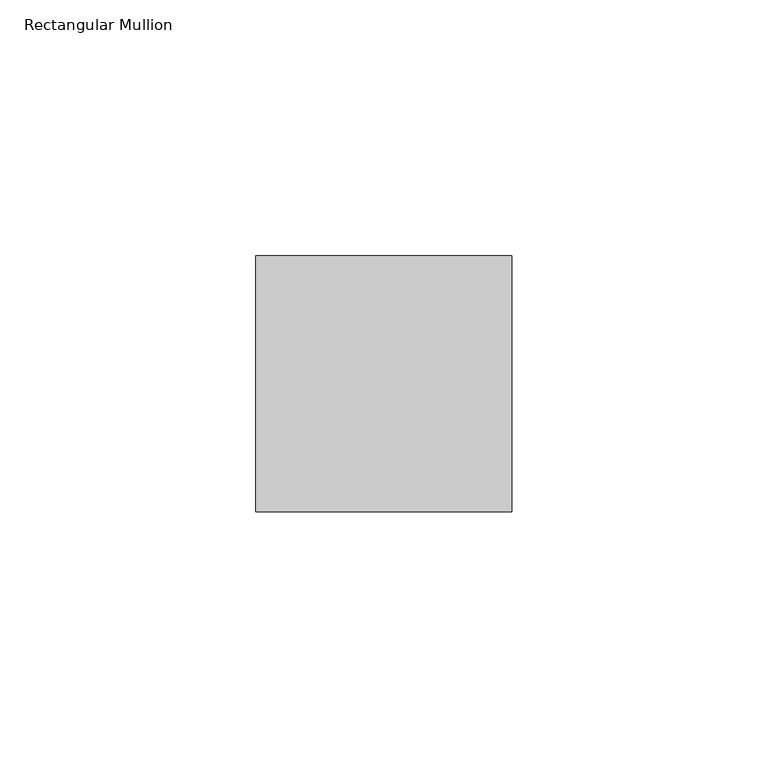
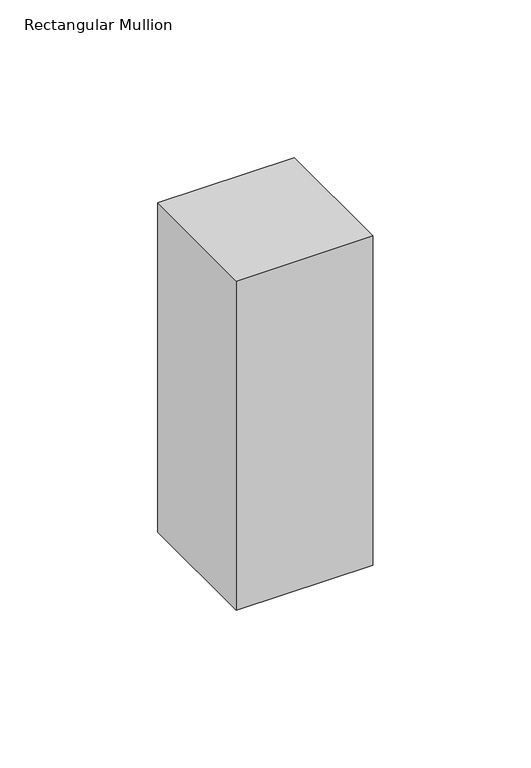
"""IFC4 building model written with IfcOpenShell, lengths in millimetres: member geometry, Rectangular Mullion : RSen_21_CWM_support profile 50x50 - right_gen_duco projects."""

from ifc_helpers import new_model, si_unit, frame, origin, place, context, project, spatial, polyline, outline, extrude, source, transform, mapped, element, save


def rectangular_mullion_5ead61f5(model_context):
    return source(origin(), model_context, "Body", "SweptSolid", [
        extrude(outline(polyline([(-50.0, 1.0), (0.0, 1.0), (0.0, -49.0), (-50.0, -49.0), (-50.0, 1.0)])), frame((0.0, 0.0, -127.5), z_axis=(0.0, 0.0, 1.0), x_axis=(1.0, 0.0, 0.0)), (0.0, 0.0, 1.0), 127.5),
    ])


if __name__ == "__main__":
    model = new_model("IFC4")
    model_context = context("Model", 3, world=origin())
    ifc_project = project(units=[si_unit("LENGTHUNIT", "METRE", prefix="MILLI")], contexts=[model_context])
    site = spatial("IfcSite", under=ifc_project)
    building = spatial("IfcBuilding", under=site)
    placement = place(None, origin())
    rectangular_mullion_shape = rectangular_mullion_5ead61f5(model_context)
    element("IfcMember", 1, ObjectType="Rectangular Mullion : RSen_21_CWM_support profile 50x50 - right_gen_duco projects", at=placement, inside=building, context=model_context, shape_type="MappedRepresentation", body=[
        mapped(rectangular_mullion_shape, transform((0.0, 0.0, 0.0), x_axis=(1.0, 0.0, 0.0), y_axis=(0.0, 1.0, 0.0), z_axis=(0.0, 0.0, 1.0))),
    ])
    save(model, "model.ifc")
